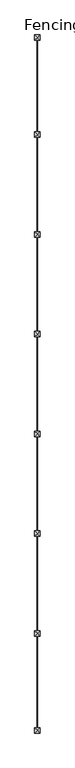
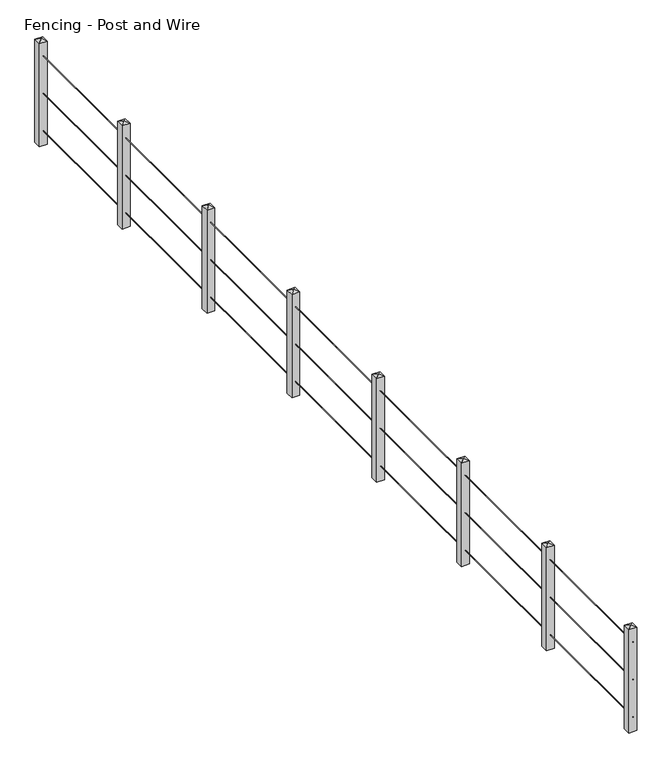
"""IFC4 building model written with IfcOpenShell, lengths in millimetres: railing geometry, Fencing - Post and Wire."""

from ifc_helpers import new_model, si_unit, point, frame, frame_2d, origin, place, context, project, spatial, circle_curve, trimmed, segment, composite_curve, outline, extrude, faceted_brep, source, transform, mapped, element, save


def fencing_post_and_wire_d1ec848e(model_context):
    return source(origin(), model_context, "Body", "SolidModel", [
        extrude(outline(composite_curve([segment(trimmed(circle_curve(frame_2d((1197.0, 50498.4324334)), 3.0), [point((1197.0, 50495.4324334))], [point((1197.0, 50501.4324334))], False, "CARTESIAN"), True, "CONTINUOUS"), segment(trimmed(circle_curve(frame_2d((1197.0, 50498.4324334)), 3.0), [point((1197.0, 50501.4324334))], [point((1197.0, 50495.4324334))], False, "CARTESIAN"), True, "CONTINUOUS")], self_intersect=False)), frame((0.0, -56479.0868221, 0.0), z_axis=(0.0, 1.0, 0.0), x_axis=(0.0, 0.0, 1.0)), (0.0, 0.0, 1.0), 13000.0),
        extrude(outline(composite_curve([segment(trimmed(circle_curve(frame_2d((697.0, 50498.4324334)), 3.0), [point((697.0, 50495.4324334))], [point((697.0, 50501.4324334))], False, "CARTESIAN"), True, "CONTINUOUS"), segment(trimmed(circle_curve(frame_2d((697.0, 50498.4324334)), 3.0), [point((697.0, 50501.4324334))], [point((697.0, 50495.4324334))], False, "CARTESIAN"), True, "CONTINUOUS")], self_intersect=False)), frame((0.0, -56479.0868221, 0.0), z_axis=(0.0, 1.0, 0.0), x_axis=(0.0, 0.0, 1.0)), (0.0, 0.0, 1.0), 13000.0),
        extrude(outline(composite_curve([segment(trimmed(circle_curve(frame_2d((197.0, 50498.4324334)), 3.0), [point((197.0, 50495.4324334))], [point((197.0, 50501.4324334))], False, "CARTESIAN"), True, "CONTINUOUS"), segment(trimmed(circle_curve(frame_2d((197.0, 50498.4324334)), 3.0), [point((197.0, 50501.4324334))], [point((197.0, 50495.4324334))], False, "CARTESIAN"), True, "CONTINUOUS")], self_intersect=False)), frame((0.0, -56479.0868221, 0.0), z_axis=(0.0, 1.0, 0.0), x_axis=(0.0, 0.0, 1.0)), (0.0, 0.0, 1.0), 13000.0),
        faceted_brep([(50448.4324334, -45286.2296792, 0.0), (50548.4324334, -45286.2296792, 0.0), (50548.4324334, -45386.2296792, 0.0), (50448.4324334, -45386.2296792, 0.0), (50448.4324334, -45386.2296792, 1377.8503862), (50448.4324334, -45286.2296792, 1377.8503862), (50548.4324334, -45386.2296792, 1377.8503862), (50548.4324334, -45286.2296792, 1377.8503862), (50498.4324334, -45336.2296792, 1400.0)], [[[0, 1, 2, 3]], [[0, 3, 4, 5]], [[3, 2, 6, 4]], [[2, 1, 7, 6]], [[1, 0, 5, 7]], [[5, 4, 8]], [[6, 7, 8]], [[7, 5, 8]], [[4, 6, 8]]]),
        faceted_brep([(50448.4324334, -47143.3725364, 0.0), (50548.4324334, -47143.3725364, 0.0), (50548.4324334, -47243.3725364, 0.0), (50448.4324334, -47243.3725364, 0.0), (50448.4324334, -47243.3725364, 1377.8503862), (50448.4324334, -47143.3725364, 1377.8503862), (50548.4324334, -47243.3725364, 1377.8503862), (50548.4324334, -47143.3725364, 1377.8503862), (50498.4324334, -47193.3725364, 1400.0)], [[[0, 1, 2, 3]], [[0, 3, 4, 5]], [[3, 2, 6, 4]], [[2, 1, 7, 6]], [[1, 0, 5, 7]], [[5, 4, 8]], [[6, 7, 8]], [[7, 5, 8]], [[4, 6, 8]]]),
        faceted_brep([(50448.4324334, -49000.5153935, 0.0), (50548.4324334, -49000.5153935, 0.0), (50548.4324334, -49100.5153935, 0.0), (50448.4324334, -49100.5153935, 0.0), (50448.4324334, -49100.5153935, 1377.8503862), (50448.4324334, -49000.5153935, 1377.8503862), (50548.4324334, -49100.5153935, 1377.8503862), (50548.4324334, -49000.5153935, 1377.8503862), (50498.4324334, -49050.5153935, 1400.0)], [[[0, 1, 2, 3]], [[0, 3, 4, 5]], [[3, 2, 6, 4]], [[2, 1, 7, 6]], [[1, 0, 5, 7]], [[5, 4, 8]], [[6, 7, 8]], [[7, 5, 8]], [[4, 6, 8]]]),
        faceted_brep([(50448.4324334, -50857.6582506, 0.0), (50548.4324334, -50857.6582506, 0.0), (50548.4324334, -50957.6582506, 0.0), (50448.4324334, -50957.6582506, 0.0), (50448.4324334, -50957.6582506, 1377.8503862), (50448.4324334, -50857.6582506, 1377.8503862), (50548.4324334, -50957.6582506, 1377.8503862), (50548.4324334, -50857.6582506, 1377.8503862), (50498.4324334, -50907.6582506, 1400.0)], [[[0, 1, 2, 3]], [[0, 3, 4, 5]], [[3, 2, 6, 4]], [[2, 1, 7, 6]], [[1, 0, 5, 7]], [[5, 4, 8]], [[6, 7, 8]], [[7, 5, 8]], [[4, 6, 8]]]),
        faceted_brep([(50448.4324334, -52714.8011078, 0.0), (50548.4324334, -52714.8011078, 0.0), (50548.4324334, -52814.8011078, 0.0), (50448.4324334, -52814.8011078, 0.0), (50448.4324334, -52814.8011078, 1377.8503862), (50448.4324334, -52714.8011078, 1377.8503862), (50548.4324334, -52814.8011078, 1377.8503862), (50548.4324334, -52714.8011078, 1377.8503862), (50498.4324334, -52764.8011078, 1400.0)], [[[0, 1, 2, 3]], [[0, 3, 4, 5]], [[3, 2, 6, 4]], [[2, 1, 7, 6]], [[1, 0, 5, 7]], [[5, 4, 8]], [[6, 7, 8]], [[7, 5, 8]], [[4, 6, 8]]]),
        faceted_brep([(50448.4324334, -54571.9439649, 0.0), (50548.4324334, -54571.9439649, 0.0), (50548.4324334, -54671.9439649, 0.0), (50448.4324334, -54671.9439649, 0.0), (50448.4324334, -54671.9439649, 1377.8503862), (50448.4324334, -54571.9439649, 1377.8503862), (50548.4324334, -54671.9439649, 1377.8503862), (50548.4324334, -54571.9439649, 1377.8503862), (50498.4324334, -54621.9439649, 1400.0)], [[[0, 1, 2, 3]], [[0, 3, 4, 5]], [[3, 2, 6, 4]], [[2, 1, 7, 6]], [[1, 0, 5, 7]], [[5, 4, 8]], [[6, 7, 8]], [[7, 5, 8]], [[4, 6, 8]]]),
        faceted_brep([(50448.4324334, -43479.0868221, 0.0), (50548.4324334, -43479.0868221, 0.0), (50548.4324334, -43579.0868221, 0.0), (50448.4324334, -43579.0868221, 0.0), (50448.4324334, -43579.0868221, 1377.8503862), (50448.4324334, -43479.0868221, 1377.8503862), (50548.4324334, -43579.0868221, 1377.8503862), (50548.4324334, -43479.0868221, 1377.8503862), (50498.4324334, -43529.0868221, 1400.0)], [[[0, 1, 2, 3]], [[0, 3, 4, 5]], [[3, 2, 6, 4]], [[2, 1, 7, 6]], [[1, 0, 5, 7]], [[5, 4, 8]], [[6, 7, 8]], [[7, 5, 8]], [[4, 6, 8]]]),
        faceted_brep([(50448.4324334, -56379.0868221, 0.0), (50548.4324334, -56379.0868221, 0.0), (50548.4324334, -56479.0868221, 0.0), (50448.4324334, -56479.0868221, 0.0), (50448.4324334, -56479.0868221, 1377.8503862), (50448.4324334, -56379.0868221, 1377.8503862), (50548.4324334, -56479.0868221, 1377.8503862), (50548.4324334, -56379.0868221, 1377.8503862), (50498.4324334, -56429.0868221, 1400.0)], [[[0, 1, 2, 3]], [[0, 3, 4, 5]], [[3, 2, 6, 4]], [[2, 1, 7, 6]], [[1, 0, 5, 7]], [[5, 4, 8]], [[6, 7, 8]], [[7, 5, 8]], [[4, 6, 8]]]),
    ])


if __name__ == "__main__":
    model = new_model("IFC4")
    model_context = context("Model", 3, world=origin())
    ifc_project = project(units=[si_unit("LENGTHUNIT", "METRE", prefix="MILLI")], contexts=[model_context])
    site = spatial("IfcSite", under=ifc_project)
    building = spatial("IfcBuilding", under=site)
    placement = place(None, origin())
    fencing_post_and_wire_shape = fencing_post_and_wire_d1ec848e(model_context)
    element("IfcRailing", 1, ObjectType="Fencing - Post and Wire", at=placement, inside=building, context=model_context, shape_type="MappedRepresentation", body=[
        mapped(fencing_post_and_wire_shape, transform((0.0, 0.0, 0.0), x_axis=(1.0, 0.0, 0.0), y_axis=(0.0, 1.0, 0.0), z_axis=(0.0, 0.0, 1.0))),
    ])
    save(model, "model.ifc")
